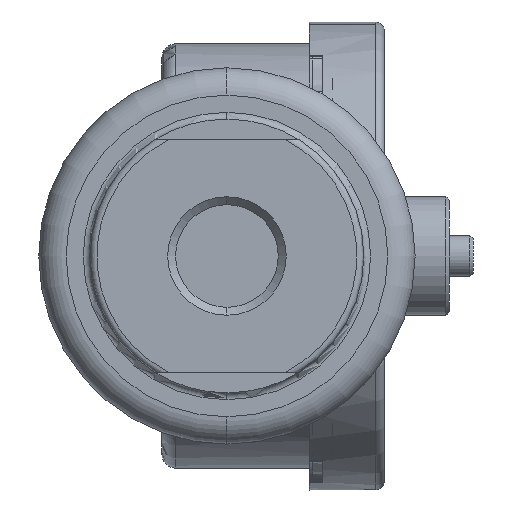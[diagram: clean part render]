
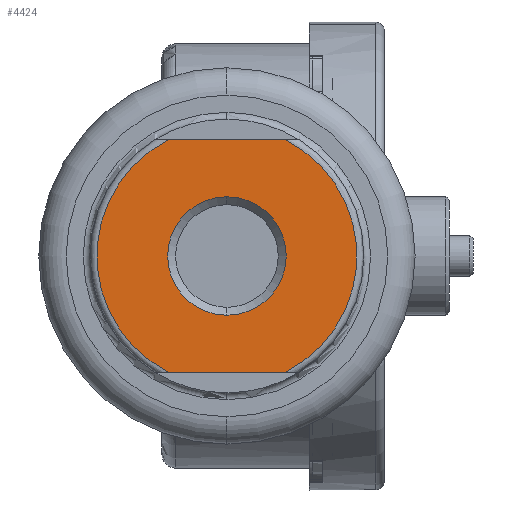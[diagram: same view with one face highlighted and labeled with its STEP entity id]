
A CAD part, front view. The second image highlights one B-rep face of the part: STEP entity #4424.
In plain terms, the highlighted planar face has unit normal (0, -1, 0).
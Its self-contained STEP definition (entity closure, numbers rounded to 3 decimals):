
#185 = ORIENTED_EDGE ( 'NONE', *, *, #15068, .F. ) ;
#590 = VERTEX_POINT ( 'NONE', #2904 ) ;
#640 = DIRECTION ( 'NONE',  ( 1., 0., 0. ) ) ;
#756 = EDGE_CURVE ( 'NONE', #9924, #2234, #14824, .T. ) ;
#1026 = VERTEX_POINT ( 'NONE', #14557 ) ;
#1727 = DIRECTION ( 'NONE',  ( 0., 0., -1. ) ) ;
#1772 = DIRECTION ( 'NONE',  ( 1., 0., 0. ) ) ;
#1935 = PLANE ( 'NONE',  #11433 ) ;
#2144 = ORIENTED_EDGE ( 'NONE', *, *, #7549, .T. ) ;
#2234 = VERTEX_POINT ( 'NONE', #2434 ) ;
#2434 = CARTESIAN_POINT ( 'NONE',  ( 28.036, -26.933, 33.19 ) ) ;
#2904 = CARTESIAN_POINT ( 'NONE',  ( 19.55, -26.933, 58.85 ) ) ;
#3126 = CARTESIAN_POINT ( 'NONE',  ( 10.89, -26.933, 50.19 ) ) ;
#4424 = ADVANCED_FACE ( 'NONE', ( #15934, #11956 ), #1935, .F. ) ;
#4642 = LINE ( 'NONE', #13549, #8230 ) ;
#5269 = AXIS2_PLACEMENT_3D ( 'NONE', #8174, #12248, #1727 ) ;
#5815 = CARTESIAN_POINT ( 'NONE',  ( 19.55, -26.933, 33.19 ) ) ;
#5967 = EDGE_CURVE ( 'NONE', #590, #7873, #13821, .T. ) ;
#6054 = CARTESIAN_POINT ( 'NONE',  ( 19.55, -26.933, 50.19 ) ) ;
#6284 = ORIENTED_EDGE ( 'NONE', *, *, #756, .T. ) ;
#6912 = CARTESIAN_POINT ( 'NONE',  ( 11.065, -26.933, 33.19 ) ) ;
#6962 = CARTESIAN_POINT ( 'NONE',  ( 19.55, -26.933, 50.19 ) ) ;
#7240 = DIRECTION ( 'NONE',  ( 0., -1., 0. ) ) ;
#7315 = DIRECTION ( 'NONE',  ( 0., 0., -1. ) ) ;
#7378 = ORIENTED_EDGE ( 'NONE', *, *, #5967, .F. ) ;
#7549 = EDGE_CURVE ( 'NONE', #1026, #9924, #10314, .T. ) ;
#7873 = VERTEX_POINT ( 'NONE', #14404 ) ;
#7923 = DIRECTION ( 'NONE',  ( 0., -1., 0. ) ) ;
#8174 = CARTESIAN_POINT ( 'NONE',  ( 19.55, -26.933, 50.19 ) ) ;
#8230 = VECTOR ( 'NONE', #9701, 1000. ) ;
#9683 = DIRECTION ( 'NONE',  ( 0., -1., 0. ) ) ;
#9701 = DIRECTION ( 'NONE',  ( 1., 0., 0. ) ) ;
#9924 = VERTEX_POINT ( 'NONE', #6912 ) ;
#10314 = CIRCLE ( 'NONE', #5269, 19. ) ;
#10947 = DIRECTION ( 'NONE',  ( 0., 0., -1. ) ) ;
#10972 = EDGE_CURVE ( 'NONE', #7873, #590, #14688, .T. ) ;
#11210 = AXIS2_PLACEMENT_3D ( 'NONE', #14246, #7923, #11402 ) ;
#11402 = DIRECTION ( 'NONE',  ( 0., 0., -1. ) ) ;
#11433 = AXIS2_PLACEMENT_3D ( 'NONE', #3126, #13229, #1772 ) ;
#11908 = EDGE_LOOP ( 'NONE', ( #15455, #185, #2144, #6284 ) ) ;
#11956 = FACE_BOUND ( 'NONE', #15655, .T. ) ;
#12248 = DIRECTION ( 'NONE',  ( 0., -1., 0. ) ) ;
#12367 = CARTESIAN_POINT ( 'NONE',  ( 28.036, -26.933, 67.19 ) ) ;
#12426 = AXIS2_PLACEMENT_3D ( 'NONE', #6962, #9683, #10947 ) ;
#12740 = EDGE_CURVE ( 'NONE', #2234, #15553, #15854, .T. ) ;
#13042 = AXIS2_PLACEMENT_3D ( 'NONE', #6054, #7240, #7315 ) ;
#13229 = DIRECTION ( 'NONE',  ( 0., 1., 0. ) ) ;
#13242 = VECTOR ( 'NONE', #640, 1000. ) ;
#13549 = CARTESIAN_POINT ( 'NONE',  ( 19.55, -26.933, 67.19 ) ) ;
#13821 = CIRCLE ( 'NONE', #13042, 8.66 ) ;
#14246 = CARTESIAN_POINT ( 'NONE',  ( 19.55, -26.933, 50.19 ) ) ;
#14404 = CARTESIAN_POINT ( 'NONE',  ( 19.55, -26.933, 41.53 ) ) ;
#14557 = CARTESIAN_POINT ( 'NONE',  ( 11.065, -26.933, 67.19 ) ) ;
#14688 = CIRCLE ( 'NONE', #11210, 8.66 ) ;
#14824 = LINE ( 'NONE', #5815, #13242 ) ;
#15068 = EDGE_CURVE ( 'NONE', #1026, #15553, #4642, .T. ) ;
#15421 = ORIENTED_EDGE ( 'NONE', *, *, #10972, .F. ) ;
#15455 = ORIENTED_EDGE ( 'NONE', *, *, #12740, .T. ) ;
#15553 = VERTEX_POINT ( 'NONE', #12367 ) ;
#15655 = EDGE_LOOP ( 'NONE', ( #15421, #7378 ) ) ;
#15854 = CIRCLE ( 'NONE', #12426, 19. ) ;
#15934 = FACE_OUTER_BOUND ( 'NONE', #11908, .T. ) ;
